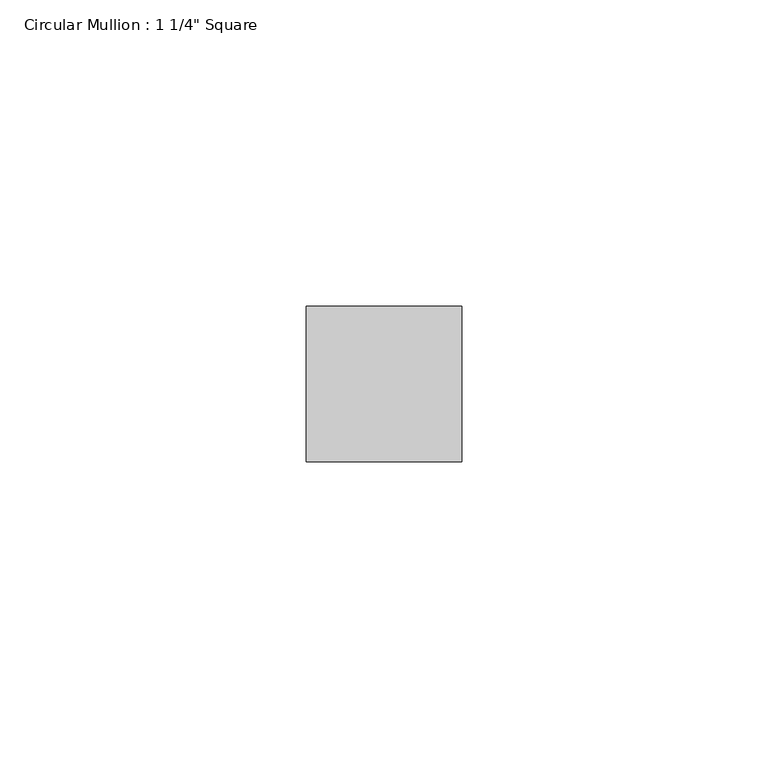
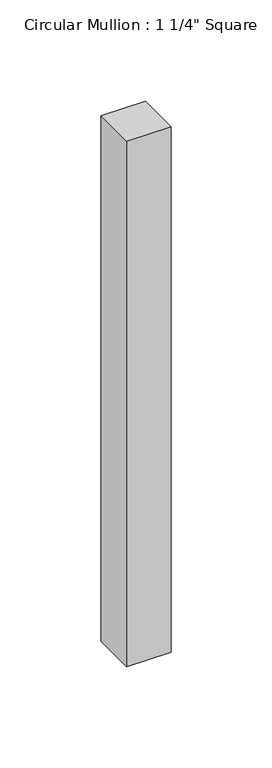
"""IFC4 building model written with IfcOpenShell, lengths in millimetres: member geometry."""

from ifc_helpers import new_model, si_unit, frame, origin, place, context, project, spatial, polyline, outline, extrude, source, transform, mapped, element, save


def member_6e26db71(model_context):
    return source(origin(), model_context, "Body", "SweptSolid", [
        extrude(outline(polyline([(12.7, 12.7), (12.7, -12.7), (-12.7, -12.7), (-12.7, 12.7), (12.7, 12.7)])), frame((0.0, 0.0, -317.5000003), z_axis=(0.0, 0.0, 1.0), x_axis=(1.0, 0.0, 0.0)), (0.0, 0.0, 1.0), 317.5000003),
    ])


if __name__ == "__main__":
    model = new_model("IFC4")
    model_context = context("Model", 3, world=origin())
    ifc_project = project(units=[si_unit("LENGTHUNIT", "METRE", prefix="MILLI")], contexts=[model_context])
    site = spatial("IfcSite", under=ifc_project)
    building = spatial("IfcBuilding", under=site)
    placement = place(None, origin())
    member_shape = member_6e26db71(model_context)
    element("IfcMember", 1, ObjectType="Circular Mullion : 1 1/4\" Square", at=placement, inside=building, context=model_context, shape_type="MappedRepresentation", body=[
        mapped(member_shape, transform((0.0, 0.0, 0.0), x_axis=(1.0, 0.0, 0.0), y_axis=(0.0, 1.0, 0.0), z_axis=(0.0, 0.0, 1.0))),
    ])
    save(model, "model.ifc")
